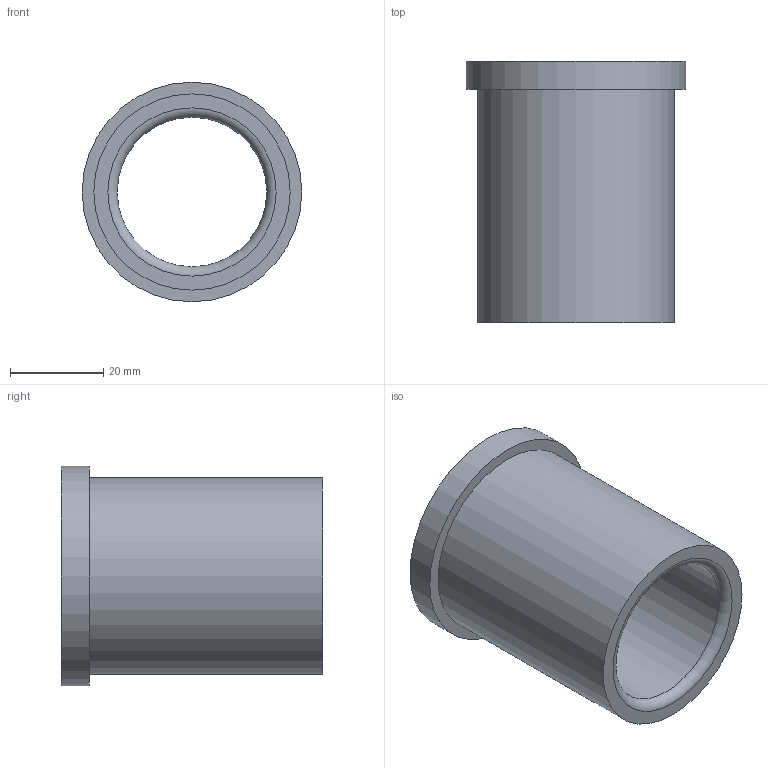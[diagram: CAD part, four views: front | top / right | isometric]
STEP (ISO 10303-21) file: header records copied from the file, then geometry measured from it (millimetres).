
FILE_DESCRIPTION(/* description */ ('STEP AP214'),/* implementation_level */ '2;1');
FILE_NAME(/* name */ '03_12_17948',/* time_stamp */ '2023-06-15T11:35:40+02:00',/* author */ ('License CC BY-ND 4.0'),/* organization */ ('CADENAS'),/* preprocessor_version */ 'ST-DEVELOPER v19.3',/* originating_system */ 'PARTsolutions',/* authorisation */ ' ');
FILE_SCHEMA (('AUTOMOTIVE_DESIGN {1 0 10303 214 3 1 1}'));
Length unit declared in the file: millimetre
Products named in the file (1): VA_Bushing_17948
Bounding box: 47 x 56 x 47 mm (x, y, z)
Volume: 34123.9 mm3; surface area: 14824.9 mm2
Topology: 1 solids, 1 shells, 10 faces, 16 edges, 10 vertices
Faces by surface type: cylinder 4, plane 4, torus 2
Full cylindrical faces by diameter (mm): 32 x1, 32.6 x1, 42 x1, 47 x1
Entity records: 302 total; most frequent: DIRECTION 42, CARTESIAN_POINT 31, AXIS2_PLACEMENT_3D 21, ORIENTED_EDGE 20, EDGE_LOOP 20, FACE_BOUND 20, EDGE_CURVE 10, VERTEX_POINT 10
